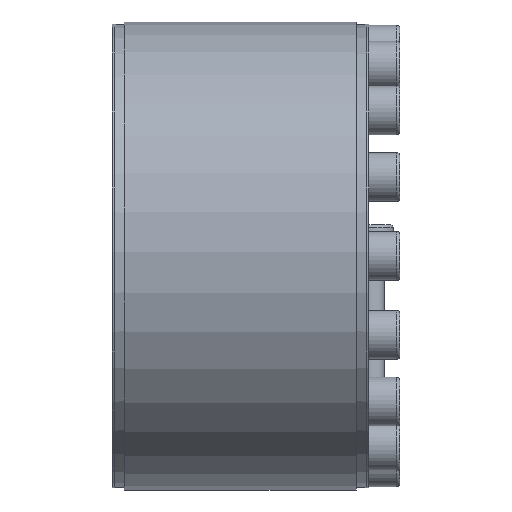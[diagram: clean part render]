
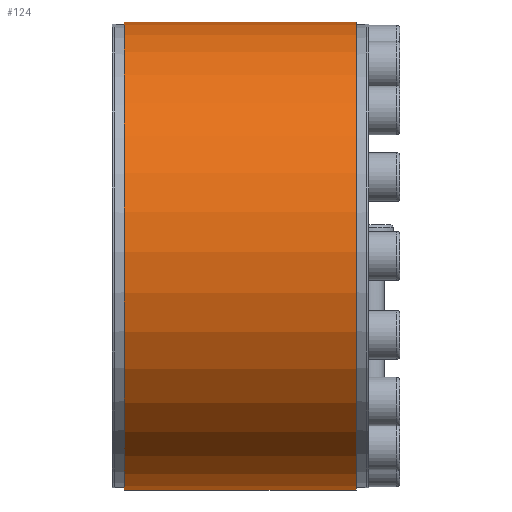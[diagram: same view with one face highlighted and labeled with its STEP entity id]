
A CAD part, left-side view. The second image highlights one B-rep face of the part: STEP entity #124.
In plain terms, the highlighted cylindrical face has radius 105 mm (diameter 210 mm), a partial arc.
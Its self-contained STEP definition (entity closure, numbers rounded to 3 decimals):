
#124 = ADVANCED_FACE( '', ( #342 ), #343, .T. );
#342 = FACE_OUTER_BOUND( '', #736, .T. );
#343 = CYLINDRICAL_SURFACE( '', #737, 105. );
#736 = EDGE_LOOP( '', ( #1198, #1199, #1200, #1201 ) );
#737 = AXIS2_PLACEMENT_3D( '', #1202, #1203, #1204 );
#1198 = ORIENTED_EDGE( '', *, *, #1804, .F. );
#1199 = ORIENTED_EDGE( '', *, *, #1805, .T. );
#1200 = ORIENTED_EDGE( '', *, *, #1792, .F. );
#1201 = ORIENTED_EDGE( '', *, *, #1806, .F. );
#1202 = CARTESIAN_POINT( '', ( 0., -60., 0. ) );
#1203 = DIRECTION( '', ( 0., 1., 0. ) );
#1204 = DIRECTION( '', ( 0., 0., -1. ) );
#1792 = EDGE_CURVE( '', #2119, #2121, #2122, .F. );
#1804 = EDGE_CURVE( '', #2141, #2142, #2143, .T. );
#1805 = EDGE_CURVE( '', #2141, #2121, #2144, .T. );
#1806 = EDGE_CURVE( '', #2142, #2119, #2145, .T. );
#2119 = VERTEX_POINT( '', #2624 );
#2121 = VERTEX_POINT( '', #2627 );
#2122 = LINE( '', #2628, #2629 );
#2141 = VERTEX_POINT( '', #2664 );
#2142 = VERTEX_POINT( '', #2665 );
#2143 = LINE( '', #2666, #2667 );
#2144 = CIRCLE( '', #2668, 105. );
#2145 = CIRCLE( '', #2669, 105. );
#2624 = CARTESIAN_POINT( '', ( 21.954, 5.5, 102.679 ) );
#2627 = CARTESIAN_POINT( '', ( 21.954, 109.5, 102.679 ) );
#2628 = CARTESIAN_POINT( '', ( 21.954, -60., 102.679 ) );
#2629 = VECTOR( '', #3075, 1000. );
#2664 = CARTESIAN_POINT( '', ( 19.011, 109.5, 103.265 ) );
#2665 = CARTESIAN_POINT( '', ( 19.011, 5.5, 103.265 ) );
#2666 = CARTESIAN_POINT( '', ( 19.011, -60., 103.265 ) );
#2667 = VECTOR( '', #3083, 1000. );
#2668 = AXIS2_PLACEMENT_3D( '', #3084, #3085, #3086 );
#2669 = AXIS2_PLACEMENT_3D( '', #3087, #3088, #3089 );
#3075 = DIRECTION( '', ( 0., -1., 0. ) );
#3083 = DIRECTION( '', ( 0., -1., 0. ) );
#3084 = CARTESIAN_POINT( '', ( 0., 109.5, 0. ) );
#3085 = DIRECTION( '', ( 0., -1., 0. ) );
#3086 = DIRECTION( '', ( 0., 0., -1. ) );
#3087 = CARTESIAN_POINT( '', ( 0., 5.5, 0. ) );
#3088 = DIRECTION( '', ( 0., -1., 0. ) );
#3089 = DIRECTION( '', ( 0., 0., -1. ) );
